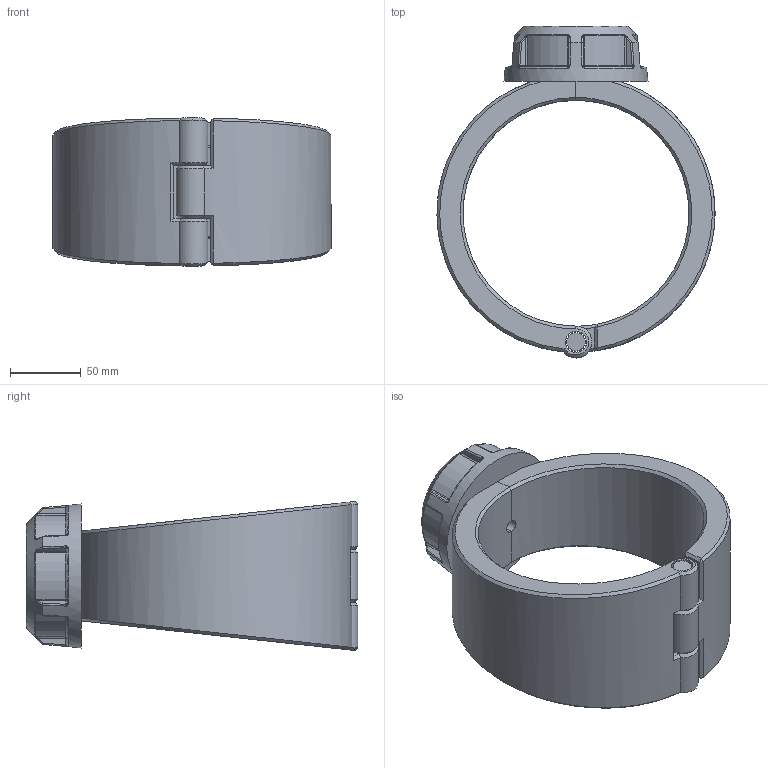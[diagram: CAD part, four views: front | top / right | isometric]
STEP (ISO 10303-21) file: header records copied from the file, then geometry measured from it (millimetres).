
FILE_DESCRIPTION(/* description */ ('Plassadle Threaded 160x1/2'''''),/* implementation_level */ '2;1');
FILE_NAME(/* name */ 'C:\Users\comp2\Dropbox\99-16-3568-Processing\Mechanical Fittings\16300\stp\163000160005.stp',/* time_stamp */ '2022-02-03T11:51:09+00:00',/* author */ ('comp2'),/* organization */ (''),/* preprocessor_version */ 'ST-DEVELOPER v17.2',/* originating_system */ 'Autodesk Inventor 2019',/* authorisation */ '');
FILE_SCHEMA (('AUTOMOTIVE_DESIGN { 1 0 10303 214 3 1 1 }'));
Length unit declared in the file: millimetre
Products named in the file (1): 163000160005
Bounding box: 196.98 x 235 x 105.57 mm (x, y, z)
Volume: 1088264 mm3; surface area: 154922.9 mm2
Topology: 4 solids, 4 shells, 203 faces, 486 edges, 293 vertices
Faces by surface type: bspline 58, plane 53, cylinder 47, torus 18, cone 15, sphere 12
Full cylindrical faces by diameter (mm): 9.316 x1, 13.04 x1, 15.04 x3, 15.836 x1, 18.631 x1, 27.947 x1
Entity records: 8244 total; most frequent: CARTESIAN_POINT 3897, ORIENTED_EDGE 972, DIRECTION 781, EDGE_CURVE 486, AXIS2_PLACEMENT_3D 330, VERTEX_POINT 293, EDGE_LOOP 213, FACE_OUTER_BOUND 203
